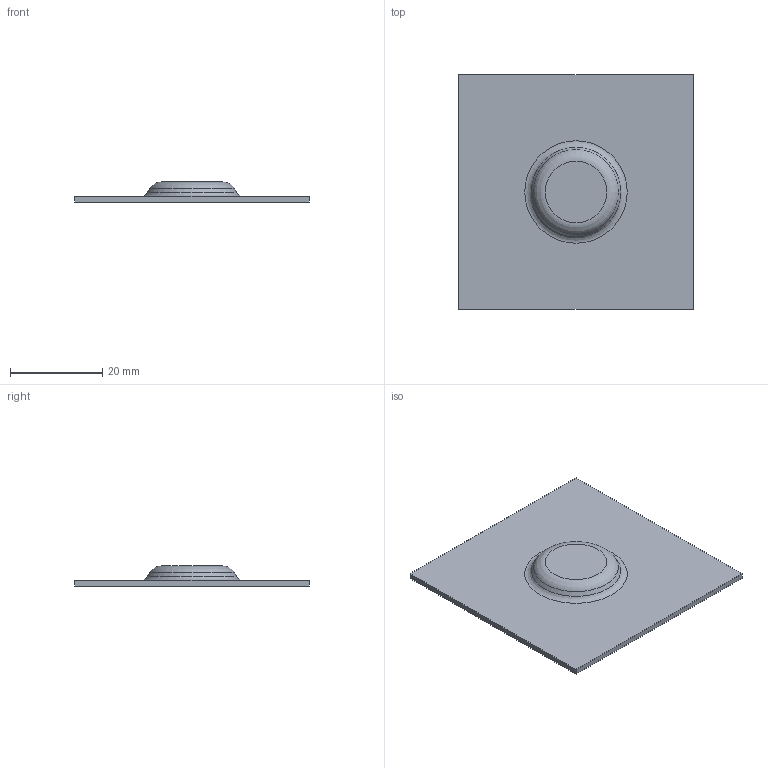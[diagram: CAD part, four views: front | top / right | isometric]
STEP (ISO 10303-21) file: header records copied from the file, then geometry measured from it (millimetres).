
FILE_DESCRIPTION((''),'1');
FILE_NAME('C:/Users/robertnolte/Desktop/WT#439099-10.stp','2012-03-29T23:09:53',(''),(''),'Spatial Interop R21 SP3','Kubotek KeyCreator 2011 V10.5.0 (24766)',' ');
FILE_SCHEMA(('CONFIG_CONTROL_DESIGN'));
Length unit declared in the file: inch
Products named in the file (1): 1
Bounding box: 50.8 x 50.8 x 4.37 mm (x, y, z)
Volume: 3236.9 mm3; surface area: 5557.6 mm2
Topology: 1 solids, 1 shells, 14 faces, 28 edges, 18 vertices
Faces by surface type: plane 8, torus 4, cone 2
Entity records: 360 total; most frequent: DIRECTION 58, CARTESIAN_POINT 51, ORIENTED_EDGE 40, AXIS2_PLACEMENT_3D 23, EDGE_LOOP 22, EDGE_CURVE 20, VERTEX_POINT 16, ADVANCED_FACE 14
